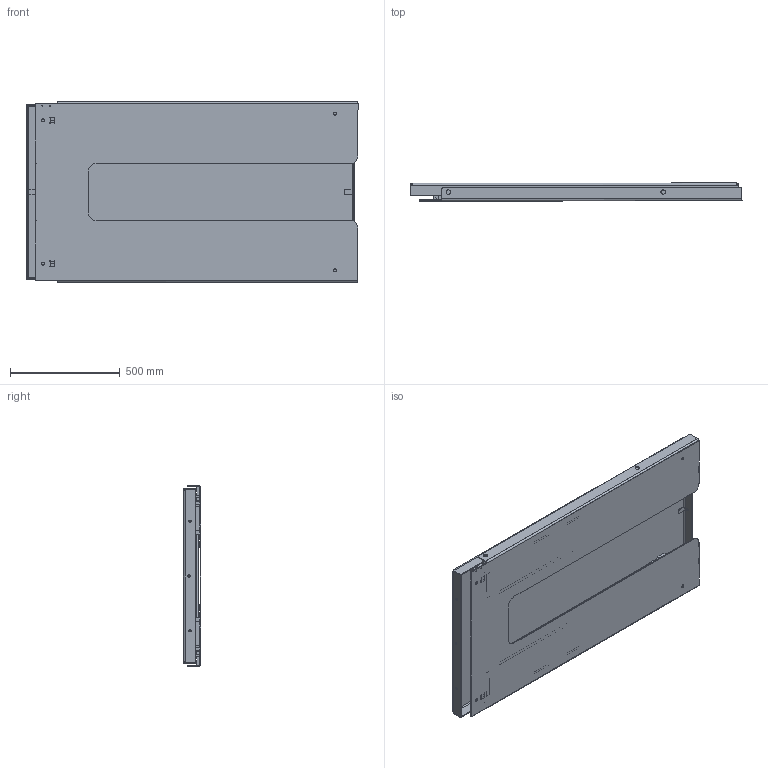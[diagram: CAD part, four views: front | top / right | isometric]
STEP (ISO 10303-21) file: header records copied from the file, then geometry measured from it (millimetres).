
FILE_DESCRIPTION(/* description */ ('Base plate'),/* implementation_level */ '2;1');
FILE_NAME(/* name */ 'C:\Autodesk_VaultWork\Ritningar\Exporterade modeller\CCB 1000 - (22005)\22005_Closed-Height.stp',/* time_stamp */ '2017-01-31T10:07:42+01:00',/* author */ ('JOHSO'),/* organization */ (''),/* preprocessor_version */ 'ST-DEVELOPER v16.5',/* originating_system */ 'Autodesk Inventor 2017',/* authorisation */ '');
FILE_SCHEMA (('AUTOMOTIVE_DESIGN { 1 0 10303 214 3 1 1 }'));
Length unit declared in the file: millimetre
Products named in the file (20): 22005_Closed-Height; 35372; 35373; 44843; K22645H; 33206; 33214; 33215; 42949C; 43352; 517433; 34750; 32497; 32473; 514471; 33248-4; 84207; 44572; 45087; 609872
Assembly tree (47 placements, depth 3):
  22005_Closed-Height
    35372
      35373
      44843  x4
      K22645H  x2
    33206
      33214  x2
      33215  x2
      517433  x2
      42949C  x8
      43352
    34750  x2
      32497
    32473
      514471
      33248-4  x8
      84207  x4
      44572  x2
      45087  x2
    609872  x2
Bounding box: 1515.06 x 81.3 x 823.41 mm (x, y, z)
Volume: 20356646.8 mm3; surface area: 7258939.5 mm2
Topology: 43 solids, 43 shells, 1270 faces, 3277 edges, 2109 vertices
Faces by surface type: plane 668, cylinder 558, cone 28, bspline 16
Full cylindrical faces by diameter (mm): 4.7 x2, 6 x4, 7.4 x6, 8.5 x4, 8.88 x4, 9.5 x4, 10 x8, 10.1 x4, 10.2 x2, 10.5 x12, 11 x6, 13 x4, 20 x4, 20.1 x4, 25.1 x2, 25.2 x2, 26 x4, 35 x2, 35.1 x4
Entity records: 22081 total; most frequent: CARTESIAN_POINT 5452, DIRECTION 3494, ORIENTED_EDGE 3198, EDGE_CURVE 1599, AXIS2_PLACEMENT_3D 1249, VERTEX_POINT 1065, LINE 996, VECTOR 996
